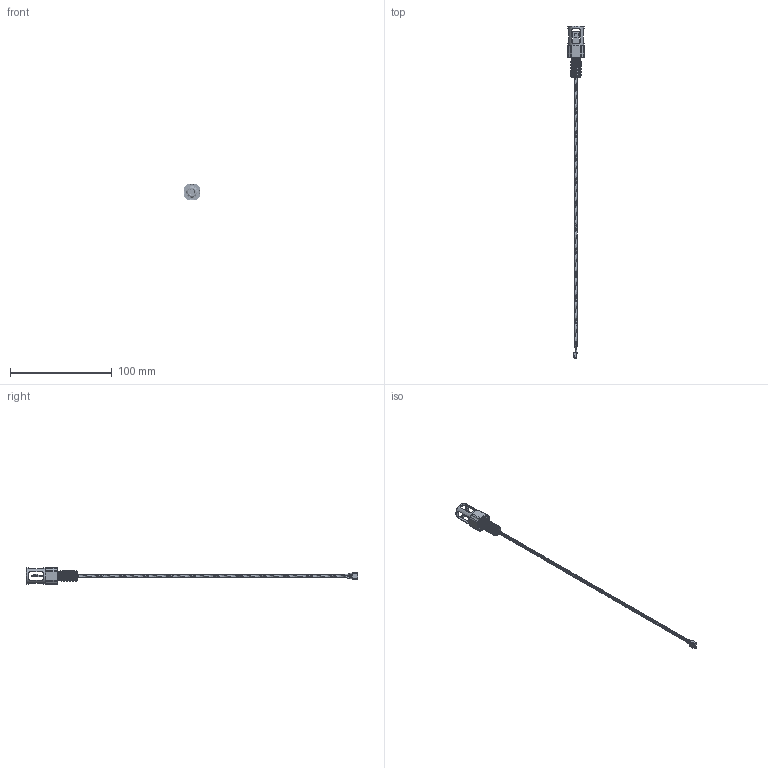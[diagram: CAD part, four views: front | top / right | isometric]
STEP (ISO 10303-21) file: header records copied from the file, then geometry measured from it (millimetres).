
FILE_DESCRIPTION (( 'STEP AP214' ), '1' );
FILE_NAME ('CELSIUS-SENSOR-R2.STEP', '2022-06-07T04:37:20', ( '' ), ( '' ), 'SwSTEP 2.0', 'SolidWorks 2022', '' );
FILE_SCHEMA (( 'AUTOMOTIVE_DESIGN' ));
Length unit declared in the file: millimetre
Products named in the file (11): POTTING-MG-832TC^CELSIUS-SENSOR-R2_POTTING-MG-832TC; CELSIUS-SENSOR-PCB-R1; SENSOR-CABLE-4-CONDUCTOR_JST-GH; LOCTITE-MARINE-EPOXY^CELSIUS-SENSOR-R2_LOCTITE-MARINE-EPOXY; MISC-ELEC-JST-GH-HOUSING-4POS-R1; BAR30-CAB-WHITE-300MM-R2; CELSIUS-M-BOLT-R2_WLP-M10-BULKHEAD-6.5MM-PUBLIC; BAR30-CAB-BLACK-300MM-R2; CELSIUS-SENSOR-R2; BAR30-CAB-RED-300MM-R2; BAR30-CAB-GREEN-300MM-R2
Assembly tree (10 placements, depth 3):
  CELSIUS-SENSOR-R2
    SENSOR-CABLE-4-CONDUCTOR_JST-GH
      BAR30-CAB-BLACK-300MM-R2
      BAR30-CAB-GREEN-300MM-R2
      BAR30-CAB-RED-300MM-R2
      BAR30-CAB-WHITE-300MM-R2
      MISC-ELEC-JST-GH-HOUSING-4POS-R1
    CELSIUS-M-BOLT-R2_WLP-M10-BULKHEAD-6.5MM-PUBLIC
    CELSIUS-SENSOR-PCB-R1
    LOCTITE-MARINE-EPOXY^CELSIUS-SENSOR-R2_LOCTITE-MARINE-EPOXY
    POTTING-MG-832TC^CELSIUS-SENSOR-R2_POTTING-MG-832TC
Bounding box: 16 x 326.65 x 16 mm (x, y, z)
Volume: 5706.9 mm3; surface area: 11808.1 mm2
Topology: 9 solids, 9 shells, 274 faces, 713 edges, 460 vertices
Faces by surface type: plane 121, cylinder 88, bspline 27, cone 27, torus 11
Entity records: 58294 total; most frequent: CARTESIAN_POINT 51421, ORIENTED_EDGE 1410, DIRECTION 1289, EDGE_CURVE 705, AXIS2_PLACEMENT_3D 474, VERTEX_POINT 460, LINE 341, VECTOR 341
